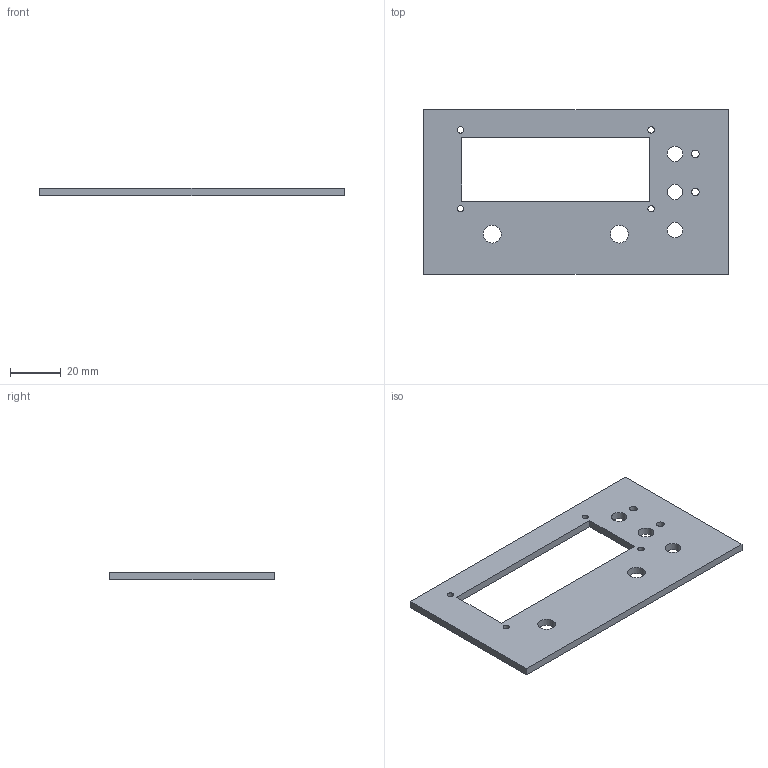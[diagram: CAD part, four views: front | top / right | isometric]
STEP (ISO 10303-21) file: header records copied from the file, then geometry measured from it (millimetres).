
FILE_DESCRIPTION(('FreeCAD Model'),'2;1');
FILE_NAME('/home/malte/3d/freecad/lcdrmeter/frontpanel3.step', '2018-04-19T16:37:07',('Author'),(''), 'Open CASCADE STEP processor 6.8','FreeCAD','Unknown');
FILE_SCHEMA(('AUTOMOTIVE_DESIGN_CC2 { 1 2 10303 214 -1 1 5 4 }'));
Length unit declared in the file: millimetre
Products named in the file (2): ASSEMBLY; Pad
Assembly tree (1 placements, depth 2):
  ASSEMBLY
    Pad
Bounding box: 119.9 x 64.8 x 3 mm (x, y, z)
Volume: 17163.3 mm3; surface area: 13599.6 mm2
Topology: 1 solids, 1 shells, 21 faces, 57 edges, 38 vertices
Faces by surface type: cylinder 11, plane 10
Full cylindrical faces by diameter (mm): 2.5 x4, 3 x2, 6.1 x3, 7 x2
Entity records: 1567 total; most frequent: CARTESIAN_POINT 364, DIRECTION 217, LINE 127, VECTOR 127, ORIENTED_EDGE 114, PCURVE 114, DEFINITIONAL_REPRESENTATION 114, EDGE_CURVE 57
